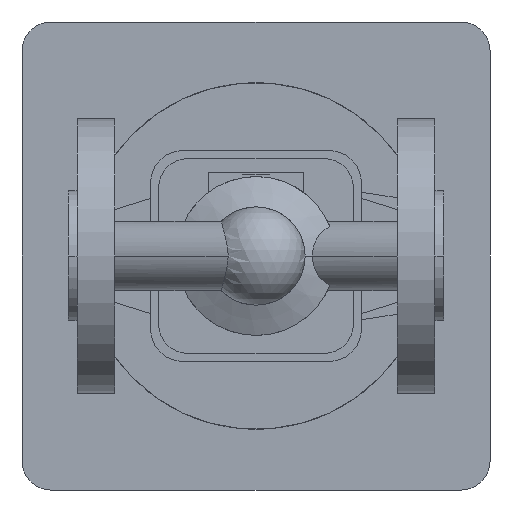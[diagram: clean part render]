
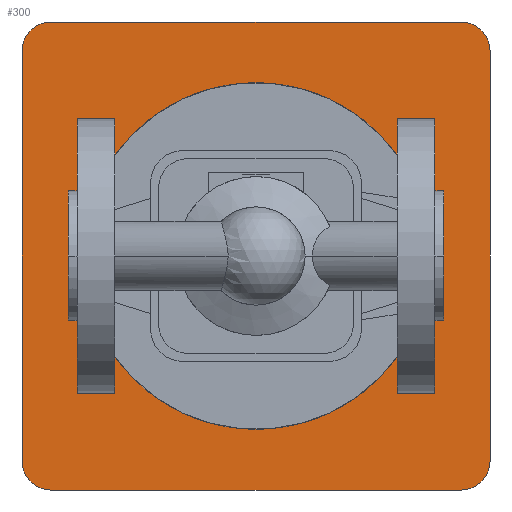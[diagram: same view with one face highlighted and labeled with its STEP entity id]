
A CAD part, front view. The second image highlights one B-rep face of the part: STEP entity #300.
In plain terms, the highlighted planar face has unit normal (0, -1, 0).
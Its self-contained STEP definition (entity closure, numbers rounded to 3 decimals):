
#300 = ADVANCED_FACE( '', ( #719, #720 ), #721, .F. );
#719 = FACE_OUTER_BOUND( '', #1164, .T. );
#720 = FACE_BOUND( '', #1165, .T. );
#721 = PLANE( '', #1166 );
#1164 = EDGE_LOOP( '', ( #2614, #2615, #2616, #2617, #2618, #2619, #2620, #2621 ) );
#1165 = EDGE_LOOP( '', ( #2622, #2623 ) );
#1166 = AXIS2_PLACEMENT_3D( '', #2624, #2625, #2626 );
#2614 = ORIENTED_EDGE( '', *, *, #3239, .F. );
#2615 = ORIENTED_EDGE( '', *, *, #3240, .F. );
#2616 = ORIENTED_EDGE( '', *, *, #3241, .F. );
#2617 = ORIENTED_EDGE( '', *, *, #3242, .F. );
#2618 = ORIENTED_EDGE( '', *, *, #3243, .F. );
#2619 = ORIENTED_EDGE( '', *, *, #3244, .F. );
#2620 = ORIENTED_EDGE( '', *, *, #3245, .F. );
#2621 = ORIENTED_EDGE( '', *, *, #3246, .F. );
#2622 = ORIENTED_EDGE( '', *, *, #3154, .F. );
#2623 = ORIENTED_EDGE( '', *, *, #3247, .F. );
#2624 = CARTESIAN_POINT( '', ( 65., 583., 0. ) );
#2625 = DIRECTION( '', ( 0., 1., 0. ) );
#2626 = DIRECTION( '', ( 0., 0., 1. ) );
#3154 = EDGE_CURVE( '', #3889, #3892, #3893, .T. );
#3239 = EDGE_CURVE( '', #4036, #4037, #4038, .T. );
#3240 = EDGE_CURVE( '', #4039, #4036, #4040, .T. );
#3241 = EDGE_CURVE( '', #4041, #4039, #4042, .T. );
#3242 = EDGE_CURVE( '', #4043, #4041, #4044, .T. );
#3243 = EDGE_CURVE( '', #4045, #4043, #4046, .T. );
#3244 = EDGE_CURVE( '', #4047, #4045, #4048, .T. );
#3245 = EDGE_CURVE( '', #4049, #4047, #4050, .T. );
#3246 = EDGE_CURVE( '', #4037, #4049, #4051, .T. );
#3247 = EDGE_CURVE( '', #3892, #3889, #4052, .T. );
#3889 = VERTEX_POINT( '', #5197 );
#3892 = VERTEX_POINT( '', #5201 );
#3893 = CIRCLE( '', #5202, 40. );
#4036 = VERTEX_POINT( '', #5400 );
#4037 = VERTEX_POINT( '', #5401 );
#4038 = CIRCLE( '', #5402, 10. );
#4039 = VERTEX_POINT( '', #5403 );
#4040 = LINE( '', #5404, #5405 );
#4041 = VERTEX_POINT( '', #5406 );
#4042 = CIRCLE( '', #5407, 10. );
#4043 = VERTEX_POINT( '', #5408 );
#4044 = LINE( '', #5409, #5410 );
#4045 = VERTEX_POINT( '', #5411 );
#4046 = CIRCLE( '', #5412, 10. );
#4047 = VERTEX_POINT( '', #5413 );
#4048 = LINE( '', #5414, #5415 );
#4049 = VERTEX_POINT( '', #5416 );
#4050 = CIRCLE( '', #5417, 10. );
#4051 = LINE( '', #5418, #5419 );
#4052 = CIRCLE( '', #5420, 40. );
#5197 = CARTESIAN_POINT( '', ( 25., 583., 0. ) );
#5201 = CARTESIAN_POINT( '', ( 105., 583., 0. ) );
#5202 = AXIS2_PLACEMENT_3D( '', #6147, #6148, #6149 );
#5400 = CARTESIAN_POINT( '', ( -16., 583., 71. ) );
#5401 = CARTESIAN_POINT( '', ( -6., 583., 81. ) );
#5402 = AXIS2_PLACEMENT_3D( '', #6292, #6293, #6294 );
#5403 = CARTESIAN_POINT( '', ( -16., 583., -71. ) );
#5404 = CARTESIAN_POINT( '', ( -16., 583., -71. ) );
#5405 = VECTOR( '', #6295, 1. );
#5406 = CARTESIAN_POINT( '', ( -6., 583., -81. ) );
#5407 = AXIS2_PLACEMENT_3D( '', #6296, #6297, #6298 );
#5408 = CARTESIAN_POINT( '', ( 136., 583., -81. ) );
#5409 = CARTESIAN_POINT( '', ( 136., 583., -81. ) );
#5410 = VECTOR( '', #6299, 1. );
#5411 = CARTESIAN_POINT( '', ( 146., 583., -71. ) );
#5412 = AXIS2_PLACEMENT_3D( '', #6300, #6301, #6302 );
#5413 = CARTESIAN_POINT( '', ( 146., 583., 71. ) );
#5414 = CARTESIAN_POINT( '', ( 146., 583., 71. ) );
#5415 = VECTOR( '', #6303, 1. );
#5416 = CARTESIAN_POINT( '', ( 136., 583., 81. ) );
#5417 = AXIS2_PLACEMENT_3D( '', #6304, #6305, #6306 );
#5418 = CARTESIAN_POINT( '', ( -6., 583., 81. ) );
#5419 = VECTOR( '', #6307, 1. );
#5420 = AXIS2_PLACEMENT_3D( '', #6308, #6309, #6310 );
#6147 = CARTESIAN_POINT( '', ( 65., 583., 0. ) );
#6148 = DIRECTION( '', ( 0., -1., 0. ) );
#6149 = DIRECTION( '', ( -1., 0., 0. ) );
#6292 = CARTESIAN_POINT( '', ( -6., 583., 71. ) );
#6293 = DIRECTION( '', ( 0., 1., 0. ) );
#6294 = DIRECTION( '', ( -1., 0., 0. ) );
#6295 = DIRECTION( '', ( 0., 0., 1. ) );
#6296 = CARTESIAN_POINT( '', ( -6., 583., -71. ) );
#6297 = DIRECTION( '', ( 0., 1., 0. ) );
#6298 = DIRECTION( '', ( 0., 0., -1. ) );
#6299 = DIRECTION( '', ( -1., 0., 0. ) );
#6300 = CARTESIAN_POINT( '', ( 136., 583., -71. ) );
#6301 = DIRECTION( '', ( 0., 1., 0. ) );
#6302 = DIRECTION( '', ( 1., 0., 0. ) );
#6303 = DIRECTION( '', ( 0., 0., -1. ) );
#6304 = CARTESIAN_POINT( '', ( 136., 583., 71. ) );
#6305 = DIRECTION( '', ( 0., 1., 0. ) );
#6306 = DIRECTION( '', ( 0., 0., 1. ) );
#6307 = DIRECTION( '', ( 1., 0., 0. ) );
#6308 = CARTESIAN_POINT( '', ( 65., 583., 0. ) );
#6309 = DIRECTION( '', ( 0., -1., 0. ) );
#6310 = DIRECTION( '', ( -1., 0., 0. ) );
